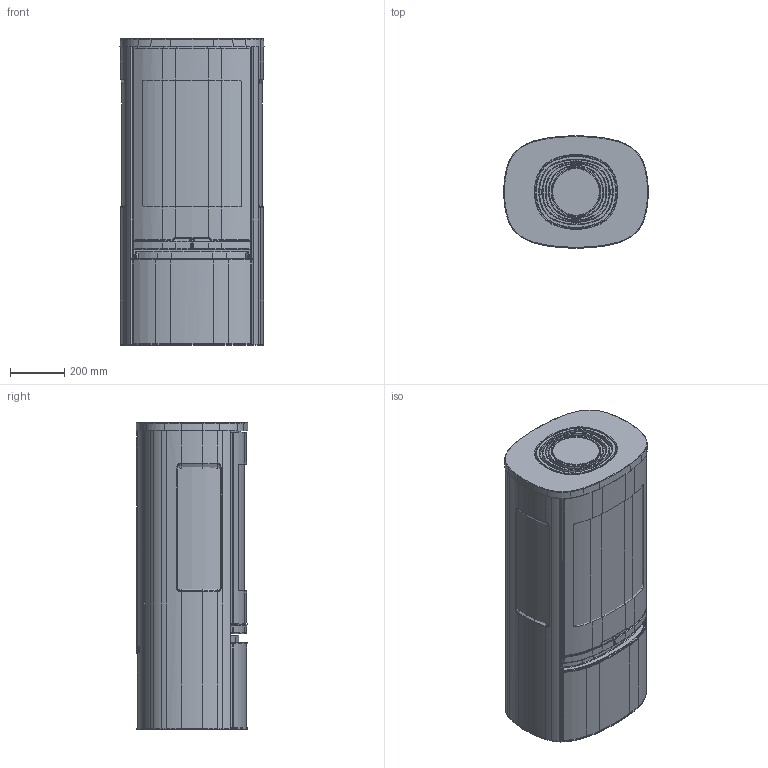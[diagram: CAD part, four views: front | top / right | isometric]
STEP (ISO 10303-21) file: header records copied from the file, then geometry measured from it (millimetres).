
FILE_DESCRIPTION(/* description */ ('Unknown'),/* implementation_level */ '2;1');
FILE_NAME(/* name */ 'DSN1111451_0_asm',/* time_stamp */ '2025-02-27T07:14:21+01:00',/* author */ ('Unknown'),/* organization */ ('NIBE AB'),/* preprocessor_version */ 'ST-DEVELOPER v18.102',/* originating_system */ 'Solid Edge',/* authorisation */ 'Unknown');
FILE_SCHEMA (('CONFIG_CONTROL_DESIGN'));
Products named in the file (13): DSN1111451; DSN1111481; DSN1110949; DSN1111452; DSN1110955; DSN1111509; DSN1111155; DSN1111118; DSN1111115; DSN1111098; DSN1111459; DSN1110998; DSN1111454
Assembly tree (14 placements, depth 2):
  DSN1111451
    DSN1111481  x2
    DSN1110949
    DSN1111452
    DSN1110955
    DSN1111509  x2
    DSN1111155
    DSN1111118
    DSN1111115
    DSN1111098
    DSN1111459
    DSN1110998
    DSN1111454
Bounding box: 534.52 x 414.02 x 1135 mm (x, y, z)
Volume: 163612571.6 mm3; surface area: 9334125.6 mm2
Topology: 14 solids, 14 shells, 1600 faces, 4084 edges, 2543 vertices
Faces by surface type: plane 438, cylinder 391, bspline 389, torus 214, cone 154, sphere 14
Full cylindrical faces by diameter (mm): 5 x5, 176.4 x1, 180.592 x1, 213.2 x1
Entity records: 77290 total; most frequent: CARTESIAN_POINT 40931, ORIENTED_EDGE 8008, DIRECTION 6980, EDGE_CURVE 4004, AXIS2_PLACEMENT_3D 2768, VERTEX_POINT 2513, FACE_BOUND 1679, EDGE_LOOP 1678
